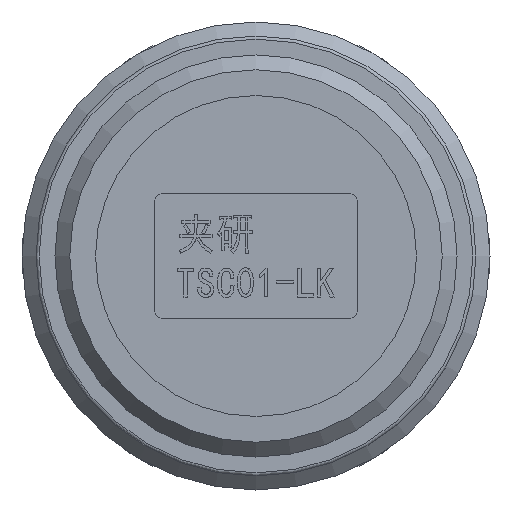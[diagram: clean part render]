
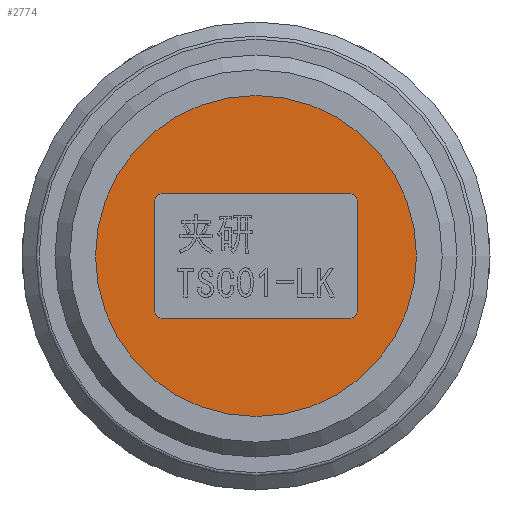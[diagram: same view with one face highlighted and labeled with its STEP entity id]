
A CAD part, front view. The second image highlights one B-rep face of the part: STEP entity #2774.
In plain terms, the highlighted planar face has unit normal (0, -1, 0).
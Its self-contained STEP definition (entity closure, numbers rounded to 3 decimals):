
#1562=PLANE('',#5851);
#1909=LINE('',#7228,#2279);
#1910=LINE('',#7233,#2280);
#1911=LINE('',#7237,#2281);
#1912=LINE('',#7241,#2282);
#2279=VECTOR('',#6200,1.);
#2280=VECTOR('',#6203,1.);
#2281=VECTOR('',#6206,1.);
#2282=VECTOR('',#6209,1.);
#2774=ADVANCED_FACE('',(#3044,#3045),#1562,.T.);
#3044=FACE_BOUND('',#3153,.T.);
#3045=FACE_BOUND('',#3154,.T.);
#3153=EDGE_LOOP('',(#3507,#3508,#3509,#3510,#3511,#3512,#3513,#3514));
#3154=EDGE_LOOP('',(#3515));
#3507=ORIENTED_EDGE('',*,*,#5128,.F.);
#3508=ORIENTED_EDGE('',*,*,#5129,.F.);
#3509=ORIENTED_EDGE('',*,*,#5130,.F.);
#3510=ORIENTED_EDGE('',*,*,#5131,.F.);
#3511=ORIENTED_EDGE('',*,*,#5132,.F.);
#3512=ORIENTED_EDGE('',*,*,#5133,.F.);
#3513=ORIENTED_EDGE('',*,*,#5134,.F.);
#3514=ORIENTED_EDGE('',*,*,#5135,.F.);
#3515=ORIENTED_EDGE('',*,*,#5136,.T.);
#4690=VERTEX_POINT('',#7229);
#4691=VERTEX_POINT('',#7230);
#4692=VERTEX_POINT('',#7232);
#4693=VERTEX_POINT('',#7234);
#4694=VERTEX_POINT('',#7236);
#4695=VERTEX_POINT('',#7238);
#4696=VERTEX_POINT('',#7240);
#4697=VERTEX_POINT('',#7242);
#4698=VERTEX_POINT('',#7245);
#5128=EDGE_CURVE('',#4690,#4691,#1909,.T.);
#5129=EDGE_CURVE('',#4692,#4690,#5732,.T.);
#5130=EDGE_CURVE('',#4693,#4692,#1910,.T.);
#5131=EDGE_CURVE('',#4694,#4693,#5733,.T.);
#5132=EDGE_CURVE('',#4695,#4694,#1911,.T.);
#5133=EDGE_CURVE('',#4696,#4695,#5734,.T.);
#5134=EDGE_CURVE('',#4697,#4696,#1912,.T.);
#5135=EDGE_CURVE('',#4691,#4697,#5735,.T.);
#5136=EDGE_CURVE('',#4698,#4698,#5736,.T.);
#5732=CIRCLE('',#5846,0.5);
#5733=CIRCLE('',#5847,0.5);
#5734=CIRCLE('',#5848,0.5);
#5735=CIRCLE('',#5849,0.5);
#5736=CIRCLE('',#5850,10.29);
#5846=AXIS2_PLACEMENT_3D('',#7231,#6201,#6202);
#5847=AXIS2_PLACEMENT_3D('',#7235,#6204,#6205);
#5848=AXIS2_PLACEMENT_3D('',#7239,#6207,#6208);
#5849=AXIS2_PLACEMENT_3D('',#7243,#6210,#6211);
#5850=AXIS2_PLACEMENT_3D('',#7244,#6212,#6213);
#5851=AXIS2_PLACEMENT_3D('',#7246,#6214,#6215);
#6200=DIRECTION('',(0.,0.,-1.));
#6201=DIRECTION('',(0.,-1.,0.));
#6202=DIRECTION('',(0.,0.,-1.));
#6203=DIRECTION('',(-1.,0.,0.));
#6204=DIRECTION('',(0.,-1.,0.));
#6205=DIRECTION('',(0.,0.,-1.));
#6206=DIRECTION('',(0.,0.,1.));
#6207=DIRECTION('',(0.,-1.,0.));
#6208=DIRECTION('',(0.,0.,-1.));
#6209=DIRECTION('',(1.,0.,0.));
#6210=DIRECTION('',(0.,-1.,0.));
#6211=DIRECTION('',(0.,0.,-1.));
#6212=DIRECTION('',(0.,-1.,0.));
#6213=DIRECTION('',(0.,0.,-1.));
#6214=DIRECTION('',(0.,-1.,0.));
#6215=DIRECTION('',(0.,0.,-1.));
#7228=CARTESIAN_POINT('',(23.111,0.,0.));
#7229=CARTESIAN_POINT('',(23.111,0.,3.5));
#7230=CARTESIAN_POINT('',(23.111,0.,-3.5));
#7231=CARTESIAN_POINT('',(23.611,0.,3.5));
#7232=CARTESIAN_POINT('',(23.611,0.,4.));
#7233=CARTESIAN_POINT('',(29.611,0.,4.));
#7234=CARTESIAN_POINT('',(35.611,0.,4.));
#7235=CARTESIAN_POINT('',(35.611,0.,3.5));
#7236=CARTESIAN_POINT('',(36.111,0.,3.5));
#7237=CARTESIAN_POINT('',(36.111,0.,0.));
#7238=CARTESIAN_POINT('',(36.111,0.,-3.5));
#7239=CARTESIAN_POINT('',(35.611,0.,-3.5));
#7240=CARTESIAN_POINT('',(35.611,0.,-4.));
#7241=CARTESIAN_POINT('',(29.611,0.,-4.));
#7242=CARTESIAN_POINT('',(23.611,0.,-4.));
#7243=CARTESIAN_POINT('',(23.611,0.,-3.5));
#7244=CARTESIAN_POINT('',(29.611,0.,0.));
#7245=CARTESIAN_POINT('',(29.611,0.,-10.29));
#7246=CARTESIAN_POINT('',(29.611,0.,0.));
